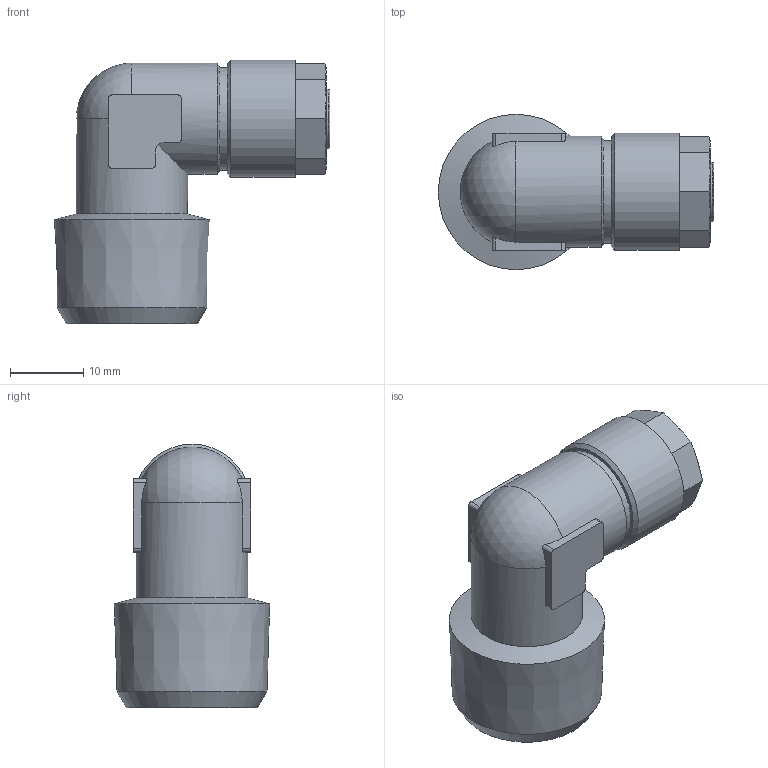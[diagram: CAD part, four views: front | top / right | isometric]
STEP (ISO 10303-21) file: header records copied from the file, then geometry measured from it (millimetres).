
FILE_DESCRIPTION(/* description */ (''),/* implementation_level */ '2;1');
FILE_NAME(/* name */ '11013_305_108_R12_18.07.17',/* time_stamp */ '2017-07-18T15:59:04+02:00',/* author */ (''),/* organization */ (''),/* preprocessor_version */ 'ST-DEVELOPER v16.5',/* originating_system */ 'HiCAD 2016 2102.2 Build 618',/* authorisation */ '');
FILE_SCHEMA (('AUTOMOTIVE_DESIGN { 1 0 10303 214 1 1 1 1 }'));
Length unit declared in the file: millimetre
Products named in the file (3): Root; R11013; 17007
Assembly tree (2 placements, depth 2):
  Root
    R11013
    17007
Bounding box: 37.61 x 21.22 x 36 mm (x, y, z)
Volume: 7300.9 mm3; surface area: 6158.8 mm2
Topology: 2 solids, 2 shells, 75 faces, 198 edges, 131 vertices
Faces by surface type: plane 29, cylinder 22, cone 21, torus 2, sphere 1
Full cylindrical faces by diameter (mm): 7 x1, 8.4 x1, 10 x1, 11 x1, 12.773 x1, 14 x1, 15 x1, 15.2 x2, 16 x1
Entity records: 5861 total; most frequent: CARTESIAN_POINT 2607, DIRECTION 370, PRESENTATION_STYLE_ASSIGNMENT 310, COLOUR_RGB 309, DRAUGHTING_PRE_DEFINED_CURVE_FONT 308, CURVE_STYLE 308, OVER_RIDING_STYLED_ITEM 308, ORIENTED_EDGE 308
